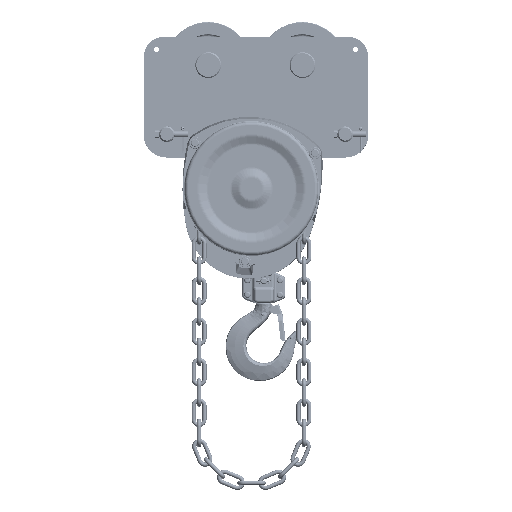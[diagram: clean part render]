
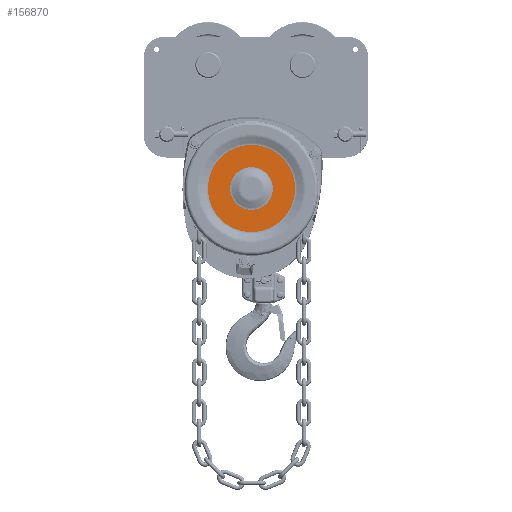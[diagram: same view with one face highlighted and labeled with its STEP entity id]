
A CAD part, top view. The second image highlights one B-rep face of the part: STEP entity #156870.
In plain terms, the highlighted planar face has unit normal (0, 0, 1) as drawn and (0, 1, 0) by its records, which use the part's own axes.
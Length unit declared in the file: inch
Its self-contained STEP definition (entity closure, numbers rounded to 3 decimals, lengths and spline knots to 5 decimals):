
#3504 = CARTESIAN_POINT ( 'NONE',  ( 0., 0.20472, 0. ) ) ;
#14621 = EDGE_CURVE ( 'NONE', #232421, #97499, #60351, .T. ) ;
#15519 = CARTESIAN_POINT ( 'NONE',  ( 0., 0.20472, 0. ) ) ;
#21055 = CARTESIAN_POINT ( 'NONE',  ( 0., 0.20472, -2.1138 ) ) ;
#32141 = DIRECTION ( 'NONE',  ( 0., 0., -1. ) ) ;
#35679 = DIRECTION ( 'NONE',  ( 0., -1., 0. ) ) ;
#38867 = AXIS2_PLACEMENT_3D ( 'NONE', #15519, #167353, #243331 ) ;
#45260 = VERTEX_POINT ( 'NONE', #237341 ) ;
#46108 = CARTESIAN_POINT ( 'NONE',  ( 0., 0.20472, 0. ) ) ;
#48302 = CIRCLE ( 'NONE', #91975, 1.03581 ) ;
#60351 = CIRCLE ( 'NONE', #199429, 2.1138 ) ;
#71853 = DIRECTION ( 'NONE',  ( 0., 0., -1. ) ) ;
#73099 = CARTESIAN_POINT ( 'NONE',  ( 0., 0.20472, 0. ) ) ;
#74565 = CIRCLE ( 'NONE', #38867, 1.03581 ) ;
#75792 = FACE_BOUND ( 'NONE', #191326, .T. ) ;
#77058 = FACE_OUTER_BOUND ( 'NONE', #156532, .T. ) ;
#86935 = CARTESIAN_POINT ( 'NONE',  ( 0., 0.20472, 0. ) ) ;
#91975 = AXIS2_PLACEMENT_3D ( 'NONE', #73099, #35679, #71853 ) ;
#97499 = VERTEX_POINT ( 'NONE', #220339 ) ;
#100318 = ORIENTED_EDGE ( 'NONE', *, *, #162587, .T. ) ;
#113981 = AXIS2_PLACEMENT_3D ( 'NONE', #46108, #199175, #137022 ) ;
#136064 = ORIENTED_EDGE ( 'NONE', *, *, #238886, .T. ) ;
#137022 = DIRECTION ( 'NONE',  ( 0., 0., -1. ) ) ;
#143241 = ORIENTED_EDGE ( 'NONE', *, *, #14621, .F. ) ;
#151659 = PLANE ( 'NONE',  #216113 ) ;
#156532 = EDGE_LOOP ( 'NONE', ( #143241, #219596 ) ) ;
#156870 = ADVANCED_FACE ( 'NONE', ( #75792, #77058 ), #151659, .T. ) ;
#160789 = EDGE_CURVE ( 'NONE', #97499, #232421, #193507, .T. ) ;
#162587 = EDGE_CURVE ( 'NONE', #45260, #227493, #74565, .T. ) ;
#162809 = DIRECTION ( 'NONE',  ( 0., -1., 0. ) ) ;
#167353 = DIRECTION ( 'NONE',  ( 0., -1., 0. ) ) ;
#175239 = DIRECTION ( 'NONE',  ( 0., 0., 1. ) ) ;
#177682 = DIRECTION ( 'NONE',  ( 0., 1., 0. ) ) ;
#191326 = EDGE_LOOP ( 'NONE', ( #136064, #100318 ) ) ;
#193507 = CIRCLE ( 'NONE', #113981, 2.1138 ) ;
#199175 = DIRECTION ( 'NONE',  ( 0., -1., 0. ) ) ;
#199429 = AXIS2_PLACEMENT_3D ( 'NONE', #86935, #162809, #32141 ) ;
#200366 = CARTESIAN_POINT ( 'NONE',  ( 0., 0.20472, -1.03581 ) ) ;
#216113 = AXIS2_PLACEMENT_3D ( 'NONE', #3504, #177682, #175239 ) ;
#219596 = ORIENTED_EDGE ( 'NONE', *, *, #160789, .F. ) ;
#220339 = CARTESIAN_POINT ( 'NONE',  ( 0., 0.20472, 2.1138 ) ) ;
#227493 = VERTEX_POINT ( 'NONE', #200366 ) ;
#232421 = VERTEX_POINT ( 'NONE', #21055 ) ;
#237341 = CARTESIAN_POINT ( 'NONE',  ( 0., 0.20472, 1.03581 ) ) ;
#238886 = EDGE_CURVE ( 'NONE', #227493, #45260, #48302, .T. ) ;
#243331 = DIRECTION ( 'NONE',  ( 0., 0., -1. ) ) ;
